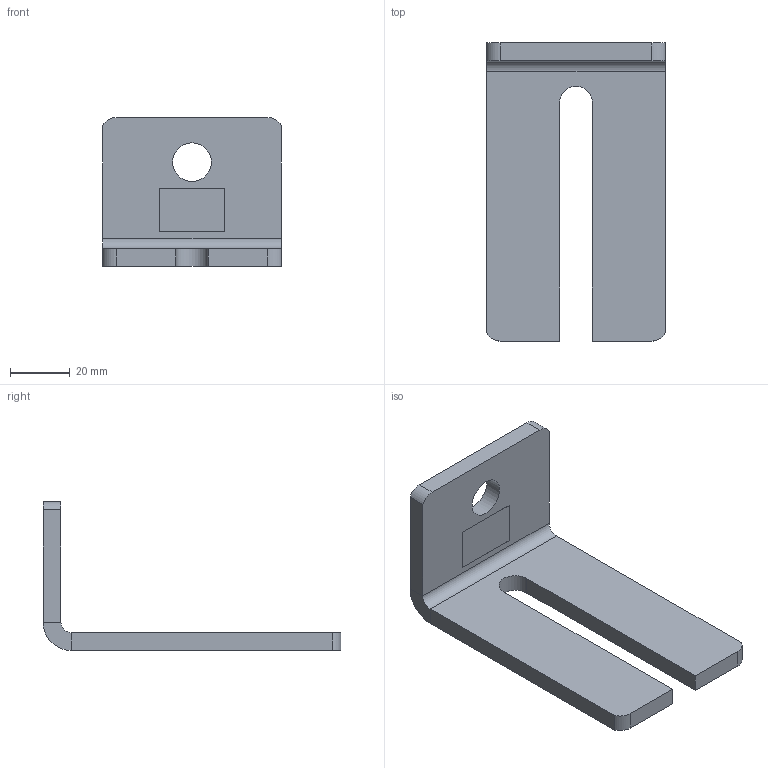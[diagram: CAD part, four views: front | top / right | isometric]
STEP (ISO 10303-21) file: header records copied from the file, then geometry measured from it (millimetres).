
FILE_DESCRIPTION(/* description */ ('Doppelkonsole Nr.0'),/* implementation_level */ '2;1');
FILE_NAME(/* name */ 'Q:\sge-ma\Produktmanagement-STB\STB\Workspace\stp\010335325.stp',/* time_stamp */ '2015-03-26T09:54:37+01:00',/* author */ ('avschreier'),/* organization */ (''),/* preprocessor_version */ 'ST-DEVELOPER v15.6',/* originating_system */ 'Autodesk Inventor 2015',/* authorisation */ '');
FILE_SCHEMA (('CONFIG_CONTROL_DESIGN'));
Length unit declared in the file: millimetre
Products named in the file (1): 010335325
Bounding box: 60 x 100 x 50 mm (x, y, z)
Volume: 44384.6 mm3; surface area: 18412.6 mm2
Topology: 1 solids, 1 shells, 28 faces, 67 edges, 42 vertices
Faces by surface type: plane 20, cylinder 8
Full cylindrical faces by diameter (mm): 13 x1
Entity records: 838 total; most frequent: DIRECTION 140, CARTESIAN_POINT 137, ORIENTED_EDGE 132, EDGE_CURVE 66, LINE 50, VECTOR 50, AXIS2_PLACEMENT_3D 45, VERTEX_POINT 42
